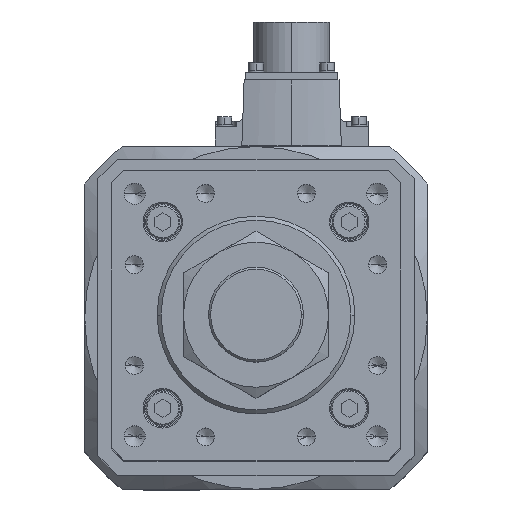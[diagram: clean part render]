
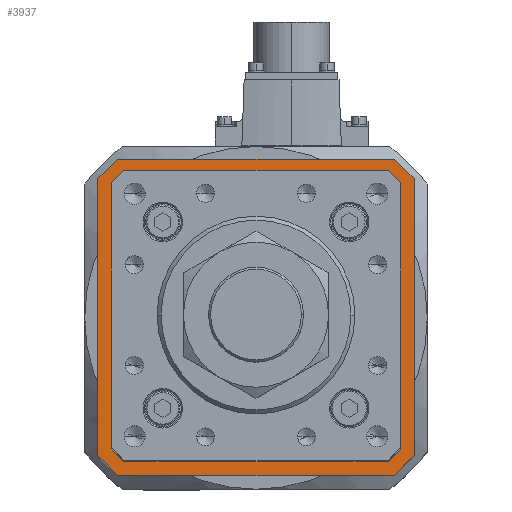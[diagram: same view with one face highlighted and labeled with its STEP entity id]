
A CAD part, top view. The second image highlights one B-rep face of the part: STEP entity #3937.
In plain terms, the highlighted planar face has unit normal (0, 0, 1).
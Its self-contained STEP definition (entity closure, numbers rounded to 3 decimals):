
#404 = CARTESIAN_POINT ( 'NONE',  ( -52.5, -60., -119. ) ) ;
#424 = DIRECTION ( 'NONE',  ( 0.707, 0.707, 0. ) ) ;
#782 = DIRECTION ( 'NONE',  ( 0.707, -0.707, 0. ) ) ;
#878 = DIRECTION ( 'NONE',  ( 0., 1., 0. ) ) ;
#1212 = VECTOR ( 'NONE', #29184, 1000. ) ;
#1383 = VECTOR ( 'NONE', #21665, 1000. ) ;
#1427 = ORIENTED_EDGE ( 'NONE', *, *, #37674, .F. ) ;
#1475 = VERTEX_POINT ( 'NONE', #19510 ) ;
#1517 = LINE ( 'NONE', #31796, #11980 ) ;
#1633 = ORIENTED_EDGE ( 'NONE', *, *, #31949, .F. ) ;
#1994 = VERTEX_POINT ( 'NONE', #2070 ) ;
#2070 = CARTESIAN_POINT ( 'NONE',  ( -49.593, -53.5, -119. ) ) ;
#2148 = CARTESIAN_POINT ( 'NONE',  ( 52.5, -60., -119. ) ) ;
#2206 = EDGE_CURVE ( 'NONE', #15524, #29686, #1517, .T. ) ;
#2209 = VERTEX_POINT ( 'NONE', #31920 ) ;
#2551 = CARTESIAN_POINT ( 'NONE',  ( -53.5, 49.593, -119. ) ) ;
#2631 = LINE ( 'NONE', #28025, #33561 ) ;
#3337 = LINE ( 'NONE', #14993, #33339 ) ;
#3853 = CARTESIAN_POINT ( 'NONE',  ( -49.593, 53.5, -119. ) ) ;
#3937 = ADVANCED_FACE ( 'NONE', ( #31400, #11829 ), #17410, .T. ) ;
#4170 = EDGE_CURVE ( 'NONE', #17289, #16599, #30958, .T. ) ;
#4896 = ORIENTED_EDGE ( 'NONE', *, *, #35651, .F. ) ;
#4905 = LINE ( 'NONE', #16908, #17205 ) ;
#5964 = DIRECTION ( 'NONE',  ( 1., 0., 0. ) ) ;
#6172 = VECTOR ( 'NONE', #16019, 1000. ) ;
#6326 = EDGE_CURVE ( 'NONE', #10903, #17289, #16321, .T. ) ;
#6497 = AXIS2_PLACEMENT_3D ( 'NONE', #12195, #23278, #5964 ) ;
#6795 = EDGE_CURVE ( 'NONE', #11743, #31936, #24461, .T. ) ;
#7209 = VECTOR ( 'NONE', #10556, 1000. ) ;
#7373 = CARTESIAN_POINT ( 'NONE',  ( -60., 52.5, -119. ) ) ;
#7543 = ORIENTED_EDGE ( 'NONE', *, *, #2206, .T. ) ;
#9945 = CARTESIAN_POINT ( 'NONE',  ( 60., 52.5, -119. ) ) ;
#9960 = LINE ( 'NONE', #2148, #7209 ) ;
#10556 = DIRECTION ( 'NONE',  ( -1., 0., 0. ) ) ;
#10903 = VERTEX_POINT ( 'NONE', #3853 ) ;
#11243 = CARTESIAN_POINT ( 'NONE',  ( 52.5, -60., -119. ) ) ;
#11743 = VERTEX_POINT ( 'NONE', #20714 ) ;
#11829 = FACE_OUTER_BOUND ( 'NONE', #33089, .T. ) ;
#11980 = VECTOR ( 'NONE', #37615, 1000. ) ;
#12195 = CARTESIAN_POINT ( 'NONE',  ( 0., 0., -119. ) ) ;
#12782 = VERTEX_POINT ( 'NONE', #26608 ) ;
#13230 = DIRECTION ( 'NONE',  ( 1., 0., 0. ) ) ;
#14272 = LINE ( 'NONE', #22777, #19710 ) ;
#14623 = LINE ( 'NONE', #21148, #18285 ) ;
#14744 = EDGE_LOOP ( 'NONE', ( #36400, #17591, #18346, #7543, #19392, #33682, #22832, #17239 ) ) ;
#14993 = CARTESIAN_POINT ( 'NONE',  ( 60., 52.5, -119. ) ) ;
#15405 = VECTOR ( 'NONE', #13230, 1000. ) ;
#15433 = EDGE_CURVE ( 'NONE', #12782, #2209, #3337, .T. ) ;
#15468 = CARTESIAN_POINT ( 'NONE',  ( -53.5, 49.8, -119. ) ) ;
#15524 = VERTEX_POINT ( 'NONE', #15735 ) ;
#15735 = CARTESIAN_POINT ( 'NONE',  ( 53.5, -49.593, -119. ) ) ;
#16019 = DIRECTION ( 'NONE',  ( 0., 1., 0. ) ) ;
#16321 = LINE ( 'NONE', #30369, #15405 ) ;
#16411 = VECTOR ( 'NONE', #23009, 1000. ) ;
#16599 = VERTEX_POINT ( 'NONE', #35363 ) ;
#16908 = CARTESIAN_POINT ( 'NONE',  ( 60., -52.5, -119. ) ) ;
#17031 = DIRECTION ( 'NONE',  ( 0., -1., 0. ) ) ;
#17205 = VECTOR ( 'NONE', #31672, 1000. ) ;
#17239 = ORIENTED_EDGE ( 'NONE', *, *, #28295, .T. ) ;
#17289 = VERTEX_POINT ( 'NONE', #25144 ) ;
#17410 = PLANE ( 'NONE',  #6497 ) ;
#17474 = VERTEX_POINT ( 'NONE', #34171 ) ;
#17591 = ORIENTED_EDGE ( 'NONE', *, *, #4170, .T. ) ;
#18226 = ORIENTED_EDGE ( 'NONE', *, *, #22556, .F. ) ;
#18285 = VECTOR ( 'NONE', #18321, 1000. ) ;
#18321 = DIRECTION ( 'NONE',  ( -0.707, 0.707, 0. ) ) ;
#18346 = ORIENTED_EDGE ( 'NONE', *, *, #28568, .T. ) ;
#18995 = CARTESIAN_POINT ( 'NONE',  ( -52.5, 60., -119. ) ) ;
#19392 = ORIENTED_EDGE ( 'NONE', *, *, #24763, .T. ) ;
#19510 = CARTESIAN_POINT ( 'NONE',  ( -60., -52.5, -119. ) ) ;
#19710 = VECTOR ( 'NONE', #17031, 1000. ) ;
#20075 = CARTESIAN_POINT ( 'NONE',  ( -49.8, -53.5, -119. ) ) ;
#20183 = VECTOR ( 'NONE', #424, 1000. ) ;
#20349 = LINE ( 'NONE', #20075, #1212 ) ;
#20456 = CARTESIAN_POINT ( 'NONE',  ( -53.646, -49.446, -119. ) ) ;
#20714 = CARTESIAN_POINT ( 'NONE',  ( -53.5, -49.593, -119. ) ) ;
#20997 = VECTOR ( 'NONE', #27794, 1000. ) ;
#21148 = CARTESIAN_POINT ( 'NONE',  ( -52.5, -60., -119. ) ) ;
#21621 = EDGE_CURVE ( 'NONE', #1994, #11743, #30041, .T. ) ;
#21665 = DIRECTION ( 'NONE',  ( 0., -1., 0. ) ) ;
#21740 = CARTESIAN_POINT ( 'NONE',  ( 53.646, 49.446, -119. ) ) ;
#22067 = DIRECTION ( 'NONE',  ( 0.707, 0.707, 0. ) ) ;
#22132 = VERTEX_POINT ( 'NONE', #11243 ) ;
#22556 = EDGE_CURVE ( 'NONE', #2209, #17474, #33227, .T. ) ;
#22777 = CARTESIAN_POINT ( 'NONE',  ( 53.5, -49.8, -119. ) ) ;
#22832 = ORIENTED_EDGE ( 'NONE', *, *, #6795, .T. ) ;
#23009 = DIRECTION ( 'NONE',  ( -0.707, 0.707, 0. ) ) ;
#23278 = DIRECTION ( 'NONE',  ( 0., 0., 1. ) ) ;
#24074 = LINE ( 'NONE', #18995, #31352 ) ;
#24461 = LINE ( 'NONE', #15468, #25361 ) ;
#24763 = EDGE_CURVE ( 'NONE', #29686, #1994, #20349, .T. ) ;
#25107 = DIRECTION ( 'NONE',  ( 1., 0., 0. ) ) ;
#25144 = CARTESIAN_POINT ( 'NONE',  ( 49.593, 53.5, -119. ) ) ;
#25361 = VECTOR ( 'NONE', #878, 1000. ) ;
#25890 = VERTEX_POINT ( 'NONE', #404 ) ;
#26608 = CARTESIAN_POINT ( 'NONE',  ( 52.5, 60., -119. ) ) ;
#26626 = LINE ( 'NONE', #7373, #6172 ) ;
#26653 = EDGE_CURVE ( 'NONE', #1475, #28605, #26626, .T. ) ;
#27794 = DIRECTION ( 'NONE',  ( 0.707, -0.707, 0. ) ) ;
#28025 = CARTESIAN_POINT ( 'NONE',  ( 52.5, 60., -119. ) ) ;
#28295 = EDGE_CURVE ( 'NONE', #31936, #10903, #33847, .T. ) ;
#28568 = EDGE_CURVE ( 'NONE', #16599, #15524, #14272, .T. ) ;
#28605 = VERTEX_POINT ( 'NONE', #31168 ) ;
#29184 = DIRECTION ( 'NONE',  ( -1., 0., 0. ) ) ;
#29686 = VERTEX_POINT ( 'NONE', #30725 ) ;
#30041 = LINE ( 'NONE', #20456, #16411 ) ;
#30369 = CARTESIAN_POINT ( 'NONE',  ( 49.8, 53.5, -119. ) ) ;
#30725 = CARTESIAN_POINT ( 'NONE',  ( 49.593, -53.5, -119. ) ) ;
#30958 = LINE ( 'NONE', #21740, #20997 ) ;
#30986 = ORIENTED_EDGE ( 'NONE', *, *, #26653, .F. ) ;
#31168 = CARTESIAN_POINT ( 'NONE',  ( -60., 52.5, -119. ) ) ;
#31352 = VECTOR ( 'NONE', #22067, 1000. ) ;
#31400 = FACE_BOUND ( 'NONE', #14744, .T. ) ;
#31672 = DIRECTION ( 'NONE',  ( -0.707, -0.707, 0. ) ) ;
#31796 = CARTESIAN_POINT ( 'NONE',  ( 49.446, -53.646, -119. ) ) ;
#31920 = CARTESIAN_POINT ( 'NONE',  ( 60., 52.5, -119. ) ) ;
#31936 = VERTEX_POINT ( 'NONE', #2551 ) ;
#31949 = EDGE_CURVE ( 'NONE', #17474, #22132, #4905, .T. ) ;
#33089 = EDGE_LOOP ( 'NONE', ( #1427, #35102, #30986, #4896, #36410, #1633, #18226, #36857 ) ) ;
#33188 = CARTESIAN_POINT ( 'NONE',  ( -49.446, 53.646, -119. ) ) ;
#33227 = LINE ( 'NONE', #9945, #1383 ) ;
#33339 = VECTOR ( 'NONE', #782, 1000. ) ;
#33561 = VECTOR ( 'NONE', #25107, 1000. ) ;
#33682 = ORIENTED_EDGE ( 'NONE', *, *, #21621, .T. ) ;
#33814 = CARTESIAN_POINT ( 'NONE',  ( -52.5, 60., -119. ) ) ;
#33847 = LINE ( 'NONE', #33188, #20183 ) ;
#34171 = CARTESIAN_POINT ( 'NONE',  ( 60., -52.5, -119. ) ) ;
#35102 = ORIENTED_EDGE ( 'NONE', *, *, #36999, .F. ) ;
#35363 = CARTESIAN_POINT ( 'NONE',  ( 53.5, 49.593, -119. ) ) ;
#35651 = EDGE_CURVE ( 'NONE', #25890, #1475, #14623, .T. ) ;
#35799 = VERTEX_POINT ( 'NONE', #33814 ) ;
#36400 = ORIENTED_EDGE ( 'NONE', *, *, #6326, .T. ) ;
#36410 = ORIENTED_EDGE ( 'NONE', *, *, #37051, .F. ) ;
#36857 = ORIENTED_EDGE ( 'NONE', *, *, #15433, .F. ) ;
#36999 = EDGE_CURVE ( 'NONE', #28605, #35799, #24074, .T. ) ;
#37051 = EDGE_CURVE ( 'NONE', #22132, #25890, #9960, .T. ) ;
#37615 = DIRECTION ( 'NONE',  ( -0.707, -0.707, 0. ) ) ;
#37674 = EDGE_CURVE ( 'NONE', #35799, #12782, #2631, .T. ) ;
